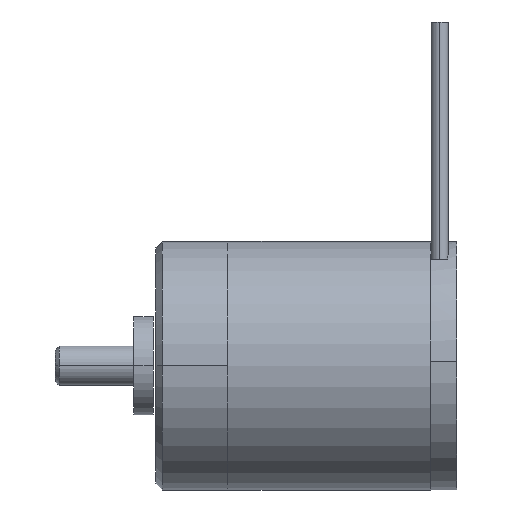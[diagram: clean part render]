
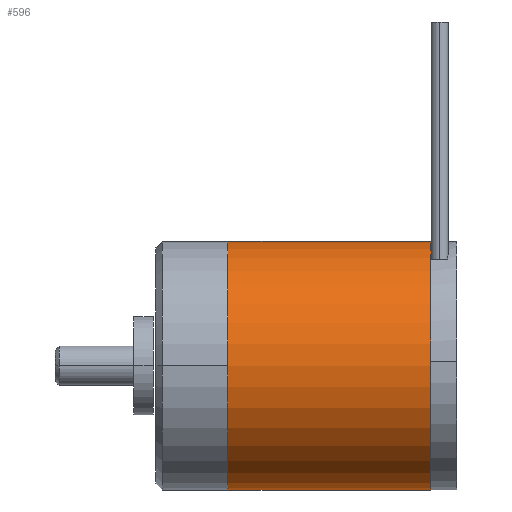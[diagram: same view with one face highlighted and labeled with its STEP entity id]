
A CAD part, front view. The second image highlights one B-rep face of the part: STEP entity #596.
In plain terms, the highlighted cylindrical face has radius 9.5 mm (diameter 19 mm), a partial arc.
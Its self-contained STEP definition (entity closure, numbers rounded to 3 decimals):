
#8 = VERTEX_POINT ( 'NONE', #5229 ) ;
#127 = DIRECTION ( 'NONE',  ( -1., 0., 0. ) ) ;
#255 = CIRCLE ( 'NONE', #2093, 9.5 ) ;
#262 = VERTEX_POINT ( 'NONE', #4916 ) ;
#264 = VECTOR ( 'NONE', #3297, 1000. ) ;
#280 = LINE ( 'NONE', #5646, #264 ) ;
#515 = EDGE_LOOP ( 'NONE', ( #4106, #4890, #4884, #3559 ) ) ;
#596 = ADVANCED_FACE ( 'NONE', ( #3270 ), #1733, .T. ) ;
#1189 = CARTESIAN_POINT ( 'NONE',  ( 29.652, 11.371, 12.318 ) ) ;
#1249 = VECTOR ( 'NONE', #127, 1000. ) ;
#1366 = VERTEX_POINT ( 'NONE', #3579 ) ;
#1514 = CARTESIAN_POINT ( 'NONE',  ( 14.152, 11.371, 12.318 ) ) ;
#1574 = DIRECTION ( 'NONE',  ( 0., 0., 1. ) ) ;
#1617 = DIRECTION ( 'NONE',  ( -1., 0., 0. ) ) ;
#1733 = CYLINDRICAL_SURFACE ( 'NONE', #4626, 9.5 ) ;
#1737 = CARTESIAN_POINT ( 'NONE',  ( 14.152, 11.371, 21.818 ) ) ;
#1985 = DIRECTION ( 'NONE',  ( -1., 0., 0. ) ) ;
#2060 = LINE ( 'NONE', #1737, #1249 ) ;
#2078 = AXIS2_PLACEMENT_3D ( 'NONE', #4834, #1985, #5280 ) ;
#2093 = AXIS2_PLACEMENT_3D ( 'NONE', #1189, #4309, #1574 ) ;
#2613 = VERTEX_POINT ( 'NONE', #2646 ) ;
#2646 = CARTESIAN_POINT ( 'NONE',  ( 14.152, 11.371, 21.818 ) ) ;
#3270 = FACE_OUTER_BOUND ( 'NONE', #515, .T. ) ;
#3297 = DIRECTION ( 'NONE',  ( -1., 0., 0. ) ) ;
#3476 = EDGE_CURVE ( 'NONE', #1366, #2613, #2060, .T. ) ;
#3559 = ORIENTED_EDGE ( 'NONE', *, *, #5552, .F. ) ;
#3579 = CARTESIAN_POINT ( 'NONE',  ( 29.652, 11.371, 21.818 ) ) ;
#4106 = ORIENTED_EDGE ( 'NONE', *, *, #5507, .F. ) ;
#4309 = DIRECTION ( 'NONE',  ( -1., 0., 0. ) ) ;
#4626 = AXIS2_PLACEMENT_3D ( 'NONE', #1514, #1617, #4899 ) ;
#4834 = CARTESIAN_POINT ( 'NONE',  ( 14.152, 11.371, 12.318 ) ) ;
#4874 = CIRCLE ( 'NONE', #2078, 9.5 ) ;
#4884 = ORIENTED_EDGE ( 'NONE', *, *, #3476, .T. ) ;
#4890 = ORIENTED_EDGE ( 'NONE', *, *, #5522, .T. ) ;
#4899 = DIRECTION ( 'NONE',  ( 0., 0., 1. ) ) ;
#4916 = CARTESIAN_POINT ( 'NONE',  ( 29.652, 11.371, 2.818 ) ) ;
#5229 = CARTESIAN_POINT ( 'NONE',  ( 14.152, 11.371, 2.818 ) ) ;
#5280 = DIRECTION ( 'NONE',  ( 0., 0., 1. ) ) ;
#5507 = EDGE_CURVE ( 'NONE', #262, #8, #280, .T. ) ;
#5522 = EDGE_CURVE ( 'NONE', #262, #1366, #255, .T. ) ;
#5552 = EDGE_CURVE ( 'NONE', #8, #2613, #4874, .T. ) ;
#5646 = CARTESIAN_POINT ( 'NONE',  ( 14.152, 11.371, 2.818 ) ) ;
